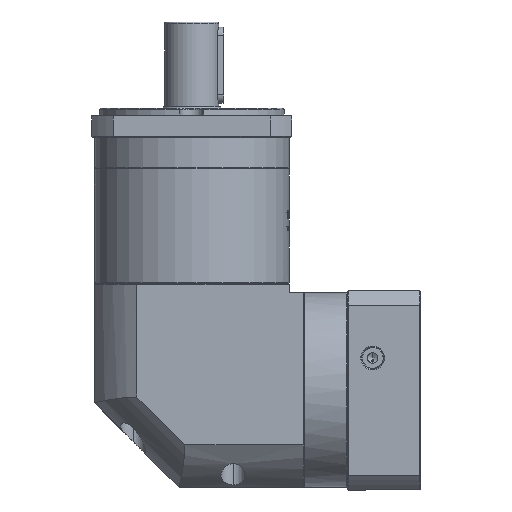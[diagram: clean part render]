
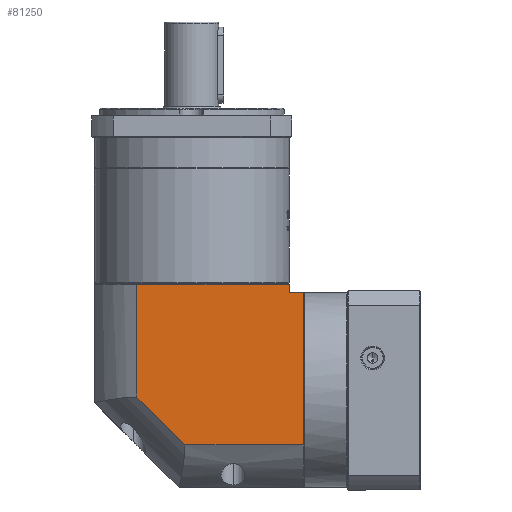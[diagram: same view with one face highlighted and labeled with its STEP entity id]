
A CAD part, left-side view. The second image highlights one B-rep face of the part: STEP entity #81250.
In plain terms, the highlighted planar face has unit normal (-1, 0, 0).
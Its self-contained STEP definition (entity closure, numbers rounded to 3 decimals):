
#1862 = CARTESIAN_POINT ( 'NONE',  ( -280.88, -67.425, -50.861 ) ) ;
#4013 = EDGE_CURVE ( 'NONE', #93676, #4467, #142549, .T. ) ;
#4069 = VECTOR ( 'NONE', #127314, 1000. ) ;
#4388 = DIRECTION ( 'NONE',  ( 1., 0., 0. ) ) ;
#4467 = VERTEX_POINT ( 'NONE', #78437 ) ;
#5759 = VECTOR ( 'NONE', #152779, 1000. ) ;
#11467 = DIRECTION ( 'NONE',  ( 0., 1., 0. ) ) ;
#21238 = EDGE_CURVE ( 'NONE', #28057, #33707, #94219, .T. ) ;
#22065 = VERTEX_POINT ( 'NONE', #142973 ) ;
#28057 = VERTEX_POINT ( 'NONE', #150684 ) ;
#29676 = CARTESIAN_POINT ( 'NONE',  ( -280.88, -137.387, 50.539 ) ) ;
#33294 = VECTOR ( 'NONE', #93405, 1000. ) ;
#33707 = VERTEX_POINT ( 'NONE', #33813 ) ;
#33813 = CARTESIAN_POINT ( 'NONE',  ( -280.88, -128.987, 44.039 ) ) ;
#33889 = LINE ( 'NONE', #65315, #77018 ) ;
#35569 = VERTEX_POINT ( 'NONE', #82886 ) ;
#38733 = VECTOR ( 'NONE', #162302, 1000. ) ;
#46640 = EDGE_CURVE ( 'NONE', #35569, #22065, #86570, .T. ) ;
#55124 = CARTESIAN_POINT ( 'NONE',  ( -280.88, -39.087, 50.539 ) ) ;
#63200 = VECTOR ( 'NONE', #105769, 1000. ) ;
#65315 = CARTESIAN_POINT ( 'NONE',  ( -280.88, -128.987, 39.039 ) ) ;
#68893 = EDGE_CURVE ( 'NONE', #4467, #28057, #110606, .T. ) ;
#70372 = CARTESIAN_POINT ( 'NONE',  ( -280.88, -13.987, 44.039 ) ) ;
#75297 = CARTESIAN_POINT ( 'NONE',  ( -280.88, -128.987, 39.039 ) ) ;
#77018 = VECTOR ( 'NONE', #11467, 1000. ) ;
#78437 = CARTESIAN_POINT ( 'NONE',  ( -280.88, -39.087, -22.523 ) ) ;
#80462 = EDGE_CURVE ( 'NONE', #35569, #160571, #33889, .T. ) ;
#81250 = ADVANCED_FACE ( 'NONE', ( #158821 ), #123697, .F. ) ;
#82886 = CARTESIAN_POINT ( 'NONE',  ( -280.88, -137.387, 39.039 ) ) ;
#86570 = LINE ( 'NONE', #29676, #33294 ) ;
#88862 = AXIS2_PLACEMENT_3D ( 'NONE', #110543, #4388, #96155 ) ;
#93286 = VECTOR ( 'NONE', #120604, 1000. ) ;
#93405 = DIRECTION ( 'NONE',  ( 0., 0., -1. ) ) ;
#93676 = VERTEX_POINT ( 'NONE', #139472 ) ;
#94219 = LINE ( 'NONE', #70372, #38733 ) ;
#96155 = DIRECTION ( 'NONE',  ( 0., 1., 0. ) ) ;
#100855 = ORIENTED_EDGE ( 'NONE', *, *, #4013, .F. ) ;
#105054 = ORIENTED_EDGE ( 'NONE', *, *, #68893, .F. ) ;
#105769 = DIRECTION ( 'NONE',  ( 0., 0., 1. ) ) ;
#110543 = CARTESIAN_POINT ( 'NONE',  ( -280.88, -13.987, 50.539 ) ) ;
#110606 = LINE ( 'NONE', #55124, #63200 ) ;
#118064 = ORIENTED_EDGE ( 'NONE', *, *, #160874, .T. ) ;
#120604 = DIRECTION ( 'NONE',  ( 0., 0.707, 0.707 ) ) ;
#121050 = EDGE_CURVE ( 'NONE', #22065, #93676, #128863, .T. ) ;
#121792 = ORIENTED_EDGE ( 'NONE', *, *, #21238, .F. ) ;
#123697 = PLANE ( 'NONE',  #88862 ) ;
#127314 = DIRECTION ( 'NONE',  ( 0., 0., 1. ) ) ;
#128863 = LINE ( 'NONE', #163176, #5759 ) ;
#134665 = ORIENTED_EDGE ( 'NONE', *, *, #121050, .F. ) ;
#137540 = EDGE_LOOP ( 'NONE', ( #105054, #100855, #134665, #153792, #153419, #118064, #121792 ) ) ;
#139472 = CARTESIAN_POINT ( 'NONE',  ( -280.88, -67.425, -50.861 ) ) ;
#142549 = LINE ( 'NONE', #1862, #93286 ) ;
#142973 = CARTESIAN_POINT ( 'NONE',  ( -280.88, -137.387, -50.861 ) ) ;
#149821 = LINE ( 'NONE', #165926, #4069 ) ;
#150684 = CARTESIAN_POINT ( 'NONE',  ( -280.88, -39.087, 44.039 ) ) ;
#152779 = DIRECTION ( 'NONE',  ( 0., 1., 0. ) ) ;
#153419 = ORIENTED_EDGE ( 'NONE', *, *, #80462, .T. ) ;
#153792 = ORIENTED_EDGE ( 'NONE', *, *, #46640, .F. ) ;
#158821 = FACE_OUTER_BOUND ( 'NONE', #137540, .T. ) ;
#160571 = VERTEX_POINT ( 'NONE', #75297 ) ;
#160874 = EDGE_CURVE ( 'NONE', #160571, #33707, #149821, .T. ) ;
#162302 = DIRECTION ( 'NONE',  ( 0., -1., 0. ) ) ;
#163176 = CARTESIAN_POINT ( 'NONE',  ( -280.88, -13.987, -50.861 ) ) ;
#165926 = CARTESIAN_POINT ( 'NONE',  ( -280.88, -128.987, -75.961 ) ) ;
